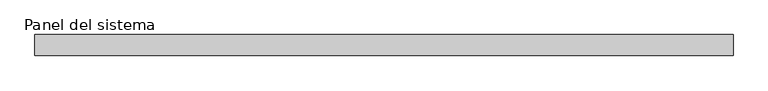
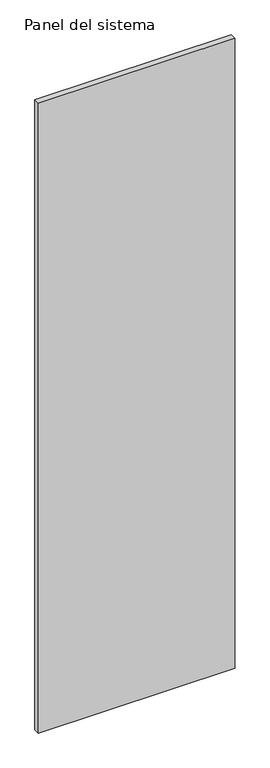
"""IFC4 building model written with IfcOpenShell, lengths in millimetres: plate geometry, Panel del sistema : HIANSA PANEL - PANELES DE CUBIERTA SIN TAPAJUNTA - EASY BOARD 3GR - Esp. 30mm."""

from ifc_helpers import new_model, si_unit, origin, origin_with_axes, place, context, project, spatial, polyline, outline, extrude, source, transform, mapped, element, save


def panel_del_sistema_1ac1ecd3(model_context):
    return source(origin(), model_context, "Body", "SweptSolid", [
        extrude(outline(polyline([(500.0000002, 35.5), (-500.0000002, 35.5), (-500.0000002, 65.5), (500.0000002, 65.5), (500.0000002, 35.5)])), origin_with_axes(), (0.0, 0.0, 1.0), 3390.8509027),
    ])


if __name__ == "__main__":
    model = new_model("IFC4")
    model_context = context("Model", 3, world=origin())
    ifc_project = project(units=[si_unit("LENGTHUNIT", "METRE", prefix="MILLI")], contexts=[model_context])
    site = spatial("IfcSite", under=ifc_project)
    building = spatial("IfcBuilding", under=site)
    placement = place(None, origin())
    panel_del_sistema_shape = panel_del_sistema_1ac1ecd3(model_context)
    element("IfcPlate", 1, ObjectType="Panel del sistema : HIANSA PANEL - PANELES DE CUBIERTA SIN TAPAJUNTA - EASY BOARD 3GR - Esp. 30mm", at=placement, inside=building, context=model_context, shape_type="MappedRepresentation", body=[
        mapped(panel_del_sistema_shape, transform((0.0, 0.0, 0.0), x_axis=(1.0, 0.0, 0.0), y_axis=(0.0, 1.0, 0.0), z_axis=(0.0, 0.0, 1.0))),
    ])
    save(model, "model.ifc")
